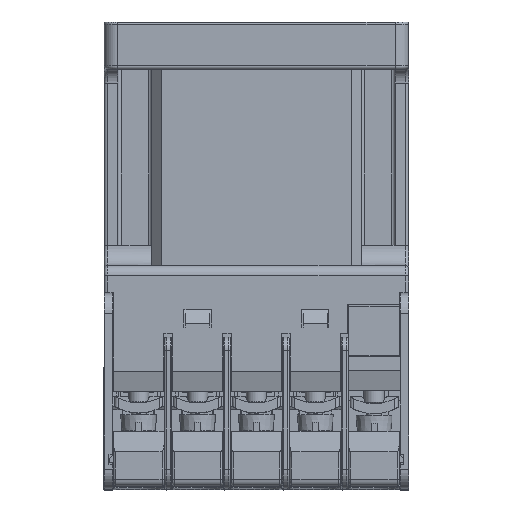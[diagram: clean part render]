
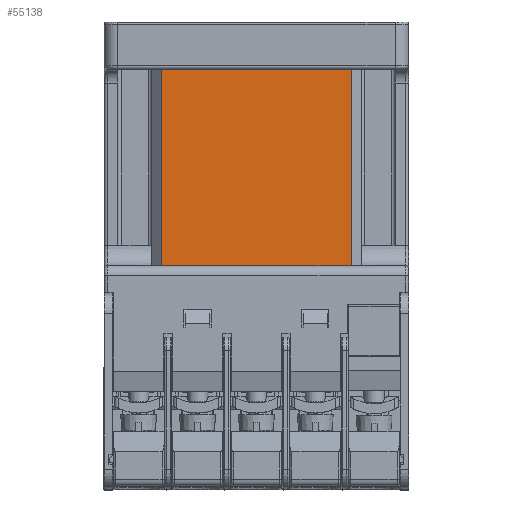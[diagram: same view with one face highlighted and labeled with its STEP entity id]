
A CAD part, top view. The second image highlights one B-rep face of the part: STEP entity #55138.
In plain terms, the highlighted planar face has unit normal (0, 0, 1) as drawn and (0, 1, 0) by its records, which use the part's own axes.
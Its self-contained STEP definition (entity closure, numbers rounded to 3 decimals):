
#206 = ORIENTED_EDGE ( 'NONE', *, *, #225737, .F. ) ;
#6973 = DIRECTION ( 'NONE',  ( 0., 0., -1. ) ) ;
#18607 = EDGE_CURVE ( 'NONE', #45568, #130173, #182234, .T. ) ;
#18857 = PLANE ( 'NONE',  #94919 ) ;
#27330 = VECTOR ( 'NONE', #166661, 1000. ) ;
#36447 = EDGE_CURVE ( 'NONE', #227912, #80469, #58092, .T. ) ;
#38328 = VECTOR ( 'NONE', #6973, 1000. ) ;
#45568 = VERTEX_POINT ( 'NONE', #70677 ) ;
#55138 = ADVANCED_FACE ( 'NONE', ( #143650 ), #18857, .T. ) ;
#57209 = CARTESIAN_POINT ( 'NONE',  ( 31.5, 47., 36. ) ) ;
#58092 = LINE ( 'NONE', #231481, #63203 ) ;
#63203 = VECTOR ( 'NONE', #124356, 1000. ) ;
#70677 = CARTESIAN_POINT ( 'NONE',  ( 31.5, 47., 7. ) ) ;
#72016 = CARTESIAN_POINT ( 'NONE',  ( 3.5, 47., 7. ) ) ;
#72811 = DIRECTION ( 'NONE',  ( -1., 0., 0. ) ) ;
#80469 = VERTEX_POINT ( 'NONE', #113881 ) ;
#90141 = CARTESIAN_POINT ( 'NONE',  ( 3.5, 47., 36. ) ) ;
#94919 = AXIS2_PLACEMENT_3D ( 'NONE', #158964, #105983, #125985 ) ;
#105983 = DIRECTION ( 'NONE',  ( 0., 1., 0. ) ) ;
#113881 = CARTESIAN_POINT ( 'NONE',  ( 31.5, 47., 36. ) ) ;
#122626 = ORIENTED_EDGE ( 'NONE', *, *, #36447, .T. ) ;
#124356 = DIRECTION ( 'NONE',  ( 1., 0., 0. ) ) ;
#125985 = DIRECTION ( 'NONE',  ( 0., 0., -1. ) ) ;
#130173 = VERTEX_POINT ( 'NONE', #72016 ) ;
#143650 = FACE_OUTER_BOUND ( 'NONE', #198710, .T. ) ;
#148413 = ORIENTED_EDGE ( 'NONE', *, *, #18607, .T. ) ;
#158964 = CARTESIAN_POINT ( 'NONE',  ( 33., 47., 7. ) ) ;
#166661 = DIRECTION ( 'NONE',  ( 0., 0., -1. ) ) ;
#182234 = LINE ( 'NONE', #216433, #220085 ) ;
#198710 = EDGE_LOOP ( 'NONE', ( #204132, #148413, #206, #122626 ) ) ;
#204132 = ORIENTED_EDGE ( 'NONE', *, *, #210670, .T. ) ;
#204752 = LINE ( 'NONE', #217772, #38328 ) ;
#210670 = EDGE_CURVE ( 'NONE', #80469, #45568, #213845, .T. ) ;
#213845 = LINE ( 'NONE', #57209, #27330 ) ;
#216433 = CARTESIAN_POINT ( 'NONE',  ( 31.5, 47., 7. ) ) ;
#217772 = CARTESIAN_POINT ( 'NONE',  ( 3.5, 47., 36. ) ) ;
#220085 = VECTOR ( 'NONE', #72811, 1000. ) ;
#225737 = EDGE_CURVE ( 'NONE', #227912, #130173, #204752, .T. ) ;
#227912 = VERTEX_POINT ( 'NONE', #90141 ) ;
#231481 = CARTESIAN_POINT ( 'NONE',  ( 3.5, 47., 36. ) ) ;
